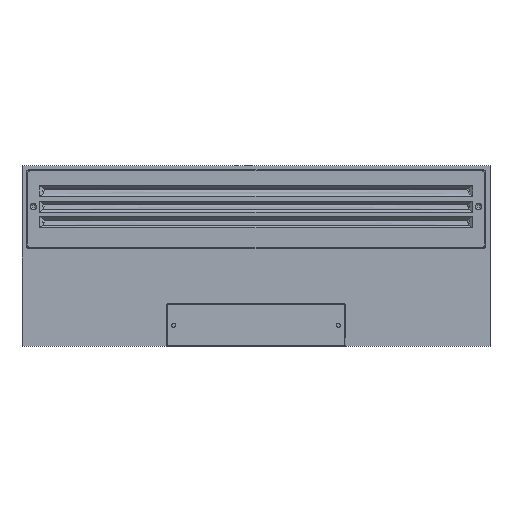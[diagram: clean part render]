
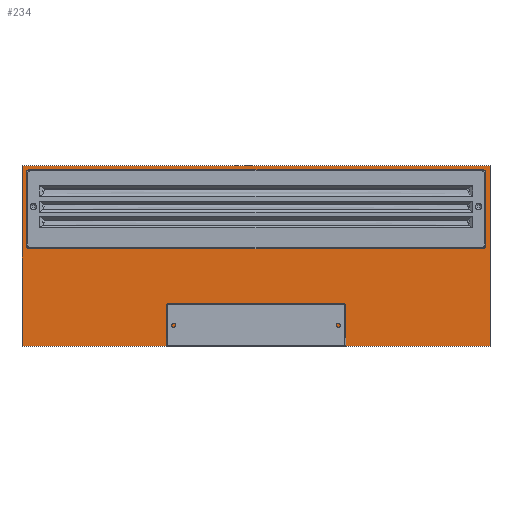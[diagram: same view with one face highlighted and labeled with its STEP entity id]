
A CAD part, top view. The second image highlights one B-rep face of the part: STEP entity #234.
In plain terms, the highlighted planar face has unit normal (0, 0, 1).
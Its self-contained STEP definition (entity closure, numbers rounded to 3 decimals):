
#33=DIRECTION('',(1.,0.,0.));
#34=VECTOR('',#33,375.);
#35=CARTESIAN_POINT('',(-187.5,-72.5,8.));
#36=LINE('',#35,#34);
#37=DIRECTION('',(0.,-1.,0.));
#38=VECTOR('',#37,145.);
#39=CARTESIAN_POINT('',(-187.5,72.5,8.));
#40=LINE('',#39,#38);
#41=DIRECTION('',(-1.,0.,0.));
#42=VECTOR('',#41,375.);
#43=CARTESIAN_POINT('',(187.5,72.5,8.));
#44=LINE('',#43,#42);
#45=DIRECTION('',(0.,1.,0.));
#46=VECTOR('',#45,145.);
#47=CARTESIAN_POINT('',(187.5,-72.5,8.));
#48=LINE('',#47,#46);
#49=DIRECTION('',(0.,-1.,0.));
#50=VECTOR('',#49,59.);
#51=CARTESIAN_POINT('',(-184.,67.,8.));
#52=LINE('',#51,#50);
#53=CARTESIAN_POINT('',(-182.,8.,8.));
#54=DIRECTION('',(0.,0.,1.));
#55=DIRECTION('',(-1.,0.,0.));
#56=AXIS2_PLACEMENT_3D('',#53,#54,#55);
#58=DIRECTION('',(1.,0.,0.));
#59=VECTOR('',#58,364.);
#60=CARTESIAN_POINT('',(-182.,6.,8.));
#61=LINE('',#60,#59);
#62=CARTESIAN_POINT('',(182.,8.,8.));
#63=DIRECTION('',(0.,0.,1.));
#64=DIRECTION('',(0.,-1.,0.));
#65=AXIS2_PLACEMENT_3D('',#62,#63,#64);
#67=DIRECTION('',(0.,1.,0.));
#68=VECTOR('',#67,59.);
#69=CARTESIAN_POINT('',(184.,8.,8.));
#70=LINE('',#69,#68);
#71=CARTESIAN_POINT('',(182.,67.,8.));
#72=DIRECTION('',(0.,0.,1.));
#73=DIRECTION('',(1.,0.,0.));
#74=AXIS2_PLACEMENT_3D('',#71,#72,#73);
#76=DIRECTION('',(-1.,0.,0.));
#77=VECTOR('',#76,364.);
#78=CARTESIAN_POINT('',(182.,69.,8.));
#79=LINE('',#78,#77);
#80=CARTESIAN_POINT('',(-182.,67.,8.));
#81=DIRECTION('',(0.,0.,1.));
#82=DIRECTION('',(0.,1.,0.));
#83=AXIS2_PLACEMENT_3D('',#80,#81,#82);
#105=CARTESIAN_POINT('',(-187.5,-72.5,8.));
#106=CARTESIAN_POINT('',(187.5,-72.5,8.));
#107=VERTEX_POINT('',#105);
#108=VERTEX_POINT('',#106);
#109=CARTESIAN_POINT('',(187.5,72.5,8.));
#110=VERTEX_POINT('',#109);
#111=CARTESIAN_POINT('',(-187.5,72.5,8.));
#112=VERTEX_POINT('',#111);
#113=CARTESIAN_POINT('',(182.,69.,8.));
#115=VERTEX_POINT('',#113);
#117=CARTESIAN_POINT('',(-182.,69.,8.));
#119=VERTEX_POINT('',#117);
#121=CARTESIAN_POINT('',(-182.,6.,8.));
#122=CARTESIAN_POINT('',(182.,6.,8.));
#123=VERTEX_POINT('',#121);
#124=VERTEX_POINT('',#122);
#125=CARTESIAN_POINT('',(184.,8.,8.));
#126=CARTESIAN_POINT('',(184.,67.,8.));
#127=VERTEX_POINT('',#125);
#128=VERTEX_POINT('',#126);
#129=CARTESIAN_POINT('',(-184.,67.,8.));
#130=CARTESIAN_POINT('',(-184.,8.,8.));
#131=VERTEX_POINT('',#129);
#132=VERTEX_POINT('',#130);
#205=CARTESIAN_POINT('',(0.,0.,8.));
#206=DIRECTION('',(0.,0.,1.));
#207=DIRECTION('',(1.,0.,0.));
#208=AXIS2_PLACEMENT_3D('',#205,#206,#207);
#209=PLANE('',#208);
#210=ORIENTED_EDGE('',*,*,#157,.F.);
#211=ORIENTED_EDGE('',*,*,#172,.F.);
#212=ORIENTED_EDGE('',*,*,#186,.F.);
#213=ORIENTED_EDGE('',*,*,#199,.F.);
#214=EDGE_LOOP('',(#210,#211,#212,#213));
#215=FACE_OUTER_BOUND('',#214,.F.);
#217=ORIENTED_EDGE('',*,*,#216,.T.);
#219=ORIENTED_EDGE('',*,*,#218,.T.);
#221=ORIENTED_EDGE('',*,*,#220,.T.);
#223=ORIENTED_EDGE('',*,*,#222,.T.);
#225=ORIENTED_EDGE('',*,*,#224,.T.);
#227=ORIENTED_EDGE('',*,*,#226,.T.);
#229=ORIENTED_EDGE('',*,*,#228,.T.);
#231=ORIENTED_EDGE('',*,*,#230,.T.);
#232=EDGE_LOOP('',(#217,#219,#221,#223,#225,#227,#229,#231));
#233=FACE_BOUND('',#232,.F.);
#234=ADVANCED_FACE('',(#215,#233),#209,.T.);
#57=CIRCLE('',#56,2.);
#66=CIRCLE('',#65,2.);
#75=CIRCLE('',#74,2.);
#84=CIRCLE('',#83,2.);
#157=EDGE_CURVE('',#107,#108,#36,.T.);
#172=EDGE_CURVE('',#112,#107,#40,.T.);
#186=EDGE_CURVE('',#110,#112,#44,.T.);
#199=EDGE_CURVE('',#108,#110,#48,.T.);
#216=EDGE_CURVE('',#131,#132,#52,.T.);
#218=EDGE_CURVE('',#132,#123,#57,.T.);
#220=EDGE_CURVE('',#123,#124,#61,.T.);
#222=EDGE_CURVE('',#124,#127,#66,.T.);
#224=EDGE_CURVE('',#127,#128,#70,.T.);
#226=EDGE_CURVE('',#128,#115,#75,.T.);
#228=EDGE_CURVE('',#115,#119,#79,.T.);
#230=EDGE_CURVE('',#119,#131,#84,.T.);
